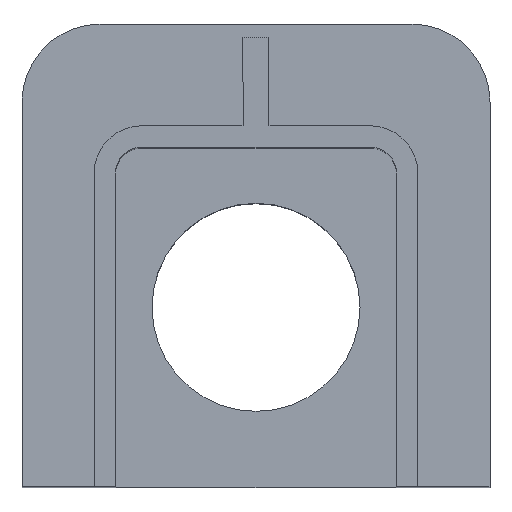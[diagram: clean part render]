
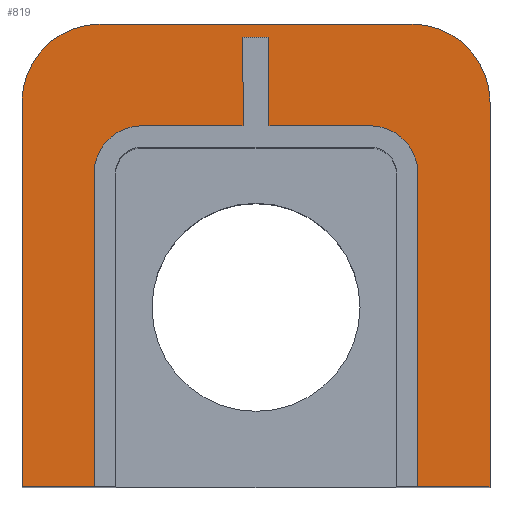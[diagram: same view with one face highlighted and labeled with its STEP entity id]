
A CAD part, top view. The second image highlights one B-rep face of the part: STEP entity #819.
In plain terms, the highlighted planar face has unit normal (0, 0, 1).
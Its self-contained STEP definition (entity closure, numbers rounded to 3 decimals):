
#2 = VERTEX_POINT ( 'NONE', #16 ) ;
#16 = CARTESIAN_POINT ( 'NONE',  ( -45., -44.5, 30. ) ) ;
#30 = ORIENTED_EDGE ( 'NONE', *, *, #630, .T. ) ;
#45 = CARTESIAN_POINT ( 'NONE',  ( 2.5, 41.9, 30. ) ) ;
#69 = CARTESIAN_POINT ( 'NONE',  ( 2.5, 24.9, 30. ) ) ;
#71 = LINE ( 'NONE', #833, #360 ) ;
#75 = CARTESIAN_POINT ( 'NONE',  ( 31.1, 15.8, 30. ) ) ;
#86 = CARTESIAN_POINT ( 'NONE',  ( -22., 15.8, 30. ) ) ;
#87 = EDGE_CURVE ( 'NONE', #645, #639, #923, .T. ) ;
#150 = DIRECTION ( 'NONE',  ( 0., 0., 1. ) ) ;
#158 = CARTESIAN_POINT ( 'NONE',  ( 2.5, 41.9, 30. ) ) ;
#163 = VECTOR ( 'NONE', #699, 1000. ) ;
#166 = ORIENTED_EDGE ( 'NONE', *, *, #295, .T. ) ;
#185 = LINE ( 'NONE', #994, #1385 ) ;
#207 = ORIENTED_EDGE ( 'NONE', *, *, #1513, .T. ) ;
#219 = DIRECTION ( 'NONE',  ( 0., -1., 0. ) ) ;
#224 = FACE_OUTER_BOUND ( 'NONE', #1183, .T. ) ;
#229 = CARTESIAN_POINT ( 'NONE',  ( 45., -44.5, 30. ) ) ;
#237 = DIRECTION ( 'NONE',  ( 0., 0., 1. ) ) ;
#260 = CARTESIAN_POINT ( 'NONE',  ( 2.5, 24.9, 30. ) ) ;
#266 = VECTOR ( 'NONE', #635, 1000. ) ;
#272 = VERTEX_POINT ( 'NONE', #1634 ) ;
#295 = EDGE_CURVE ( 'NONE', #1492, #2, #185, .T. ) ;
#308 = EDGE_CURVE ( 'NONE', #612, #1130, #427, .T. ) ;
#350 = ORIENTED_EDGE ( 'NONE', *, *, #374, .F. ) ;
#351 = DIRECTION ( 'NONE',  ( -1., 0., 0. ) ) ;
#360 = VECTOR ( 'NONE', #453, 1000. ) ;
#371 = ORIENTED_EDGE ( 'NONE', *, *, #455, .T. ) ;
#374 = EDGE_CURVE ( 'NONE', #1132, #1166, #1341, .T. ) ;
#401 = VERTEX_POINT ( 'NONE', #863 ) ;
#402 = EDGE_CURVE ( 'NONE', #1657, #1332, #482, .T. ) ;
#411 = ORIENTED_EDGE ( 'NONE', *, *, #1579, .F. ) ;
#414 = CARTESIAN_POINT ( 'NONE',  ( 30., 29.5, 30. ) ) ;
#427 = LINE ( 'NONE', #1239, #1592 ) ;
#451 = DIRECTION ( 'NONE',  ( -1., 0., 0. ) ) ;
#453 = DIRECTION ( 'NONE',  ( 1., 0., 0. ) ) ;
#454 = CARTESIAN_POINT ( 'NONE',  ( -2.5, 41.9, 30. ) ) ;
#455 = EDGE_CURVE ( 'NONE', #1276, #1657, #1221, .T. ) ;
#463 = LINE ( 'NONE', #69, #684 ) ;
#464 = ORIENTED_EDGE ( 'NONE', *, *, #793, .T. ) ;
#480 = VECTOR ( 'NONE', #713, 1000. ) ;
#482 = LINE ( 'NONE', #1017, #941 ) ;
#491 = CARTESIAN_POINT ( 'NONE',  ( -45., -44.5, 30. ) ) ;
#492 = ORIENTED_EDGE ( 'NONE', *, *, #402, .T. ) ;
#497 = CARTESIAN_POINT ( 'NONE',  ( -30., 44.5, 30. ) ) ;
#517 = LINE ( 'NONE', #891, #878 ) ;
#542 = ORIENTED_EDGE ( 'NONE', *, *, #1050, .F. ) ;
#564 = ORIENTED_EDGE ( 'NONE', *, *, #87, .F. ) ;
#571 = PLANE ( 'NONE',  #1194 ) ;
#582 = CARTESIAN_POINT ( 'NONE',  ( -45., 29.5, 30. ) ) ;
#593 = DIRECTION ( 'NONE',  ( -1., 0., 0. ) ) ;
#602 = CIRCLE ( 'NONE', #885, 9.1 ) ;
#612 = VERTEX_POINT ( 'NONE', #895 ) ;
#619 = DIRECTION ( 'NONE',  ( -1., 0., 0. ) ) ;
#630 = EDGE_CURVE ( 'NONE', #1332, #612, #858, .T. ) ;
#635 = DIRECTION ( 'NONE',  ( 1., 0., 0. ) ) ;
#637 = CARTESIAN_POINT ( 'NONE',  ( 22., 15.8, 30. ) ) ;
#639 = VERTEX_POINT ( 'NONE', #1313 ) ;
#641 = AXIS2_PLACEMENT_3D ( 'NONE', #414, #150, #1578 ) ;
#645 = VERTEX_POINT ( 'NONE', #158 ) ;
#653 = ORIENTED_EDGE ( 'NONE', *, *, #1073, .F. ) ;
#664 = VECTOR ( 'NONE', #1655, 1000. ) ;
#684 = VECTOR ( 'NONE', #1329, 1000. ) ;
#699 = DIRECTION ( 'NONE',  ( -1., 0., 0. ) ) ;
#713 = DIRECTION ( 'NONE',  ( 0., -1., 0. ) ) ;
#735 = ORIENTED_EDGE ( 'NONE', *, *, #882, .F. ) ;
#760 = CARTESIAN_POINT ( 'NONE',  ( 22., 24.9, 30. ) ) ;
#764 = EDGE_CURVE ( 'NONE', #1166, #645, #463, .T. ) ;
#780 = VECTOR ( 'NONE', #593, 1000. ) ;
#793 = EDGE_CURVE ( 'NONE', #1130, #1492, #940, .T. ) ;
#805 = CARTESIAN_POINT ( 'NONE',  ( 45., 29.5, 30. ) ) ;
#814 = DIRECTION ( 'NONE',  ( 0., 0., 1. ) ) ;
#819 = ADVANCED_FACE ( 'NONE', ( #224 ), #571, .F. ) ;
#823 = DIRECTION ( 'NONE',  ( -1., 0., 0. ) ) ;
#833 = CARTESIAN_POINT ( 'NONE',  ( -45., -44.5, 30. ) ) ;
#858 = CIRCLE ( 'NONE', #641, 15. ) ;
#863 = CARTESIAN_POINT ( 'NONE',  ( -22., 24.9, 30. ) ) ;
#878 = VECTOR ( 'NONE', #1390, 1000. ) ;
#882 = EDGE_CURVE ( 'NONE', #639, #1415, #1199, .T. ) ;
#885 = AXIS2_PLACEMENT_3D ( 'NONE', #637, #237, #619 ) ;
#891 = CARTESIAN_POINT ( 'NONE',  ( -31.1, -44.5, 30. ) ) ;
#895 = CARTESIAN_POINT ( 'NONE',  ( 30., 44.5, 30. ) ) ;
#911 = EDGE_CURVE ( 'NONE', #1276, #1500, #1381, .T. ) ;
#923 = LINE ( 'NONE', #45, #163 ) ;
#940 = CIRCLE ( 'NONE', #1679, 15. ) ;
#941 = VECTOR ( 'NONE', #1658, 1000. ) ;
#969 = ORIENTED_EDGE ( 'NONE', *, *, #1098, .F. ) ;
#994 = CARTESIAN_POINT ( 'NONE',  ( -45., -44.5, 30. ) ) ;
#1006 = LINE ( 'NONE', #1145, #664 ) ;
#1017 = CARTESIAN_POINT ( 'NONE',  ( 45., -44.5, 30. ) ) ;
#1019 = CARTESIAN_POINT ( 'NONE',  ( -31.1, -44.5, 30. ) ) ;
#1035 = ORIENTED_EDGE ( 'NONE', *, *, #308, .T. ) ;
#1050 = EDGE_CURVE ( 'NONE', #1500, #1132, #602, .T. ) ;
#1073 = EDGE_CURVE ( 'NONE', #1415, #401, #1006, .T. ) ;
#1084 = CIRCLE ( 'NONE', #1281, 9.1 ) ;
#1098 = EDGE_CURVE ( 'NONE', #272, #1111, #517, .T. ) ;
#1111 = VERTEX_POINT ( 'NONE', #1019 ) ;
#1130 = VERTEX_POINT ( 'NONE', #497 ) ;
#1132 = VERTEX_POINT ( 'NONE', #760 ) ;
#1145 = CARTESIAN_POINT ( 'NONE',  ( -22., 24.9, 30. ) ) ;
#1161 = ORIENTED_EDGE ( 'NONE', *, *, #764, .F. ) ;
#1166 = VERTEX_POINT ( 'NONE', #260 ) ;
#1183 = EDGE_LOOP ( 'NONE', ( #735, #564, #1161, #350, #542, #1628, #371, #492, #30, #1035, #464, #166, #207, #969, #411, #653 ) ) ;
#1194 = AXIS2_PLACEMENT_3D ( 'NONE', #1599, #1617, #823 ) ;
#1199 = LINE ( 'NONE', #454, #480 ) ;
#1204 = CARTESIAN_POINT ( 'NONE',  ( -30., 29.5, 30. ) ) ;
#1218 = CARTESIAN_POINT ( 'NONE',  ( -2.5, 24.9, 30. ) ) ;
#1221 = LINE ( 'NONE', #491, #266 ) ;
#1230 = CARTESIAN_POINT ( 'NONE',  ( 31.1, 15.8, 30. ) ) ;
#1239 = CARTESIAN_POINT ( 'NONE',  ( -45., 44.5, 30. ) ) ;
#1276 = VERTEX_POINT ( 'NONE', #1437 ) ;
#1281 = AXIS2_PLACEMENT_3D ( 'NONE', #86, #1520, #351 ) ;
#1313 = CARTESIAN_POINT ( 'NONE',  ( -2.5, 41.9, 30. ) ) ;
#1329 = DIRECTION ( 'NONE',  ( 0., 1., 0. ) ) ;
#1332 = VERTEX_POINT ( 'NONE', #805 ) ;
#1341 = LINE ( 'NONE', #1345, #780 ) ;
#1345 = CARTESIAN_POINT ( 'NONE',  ( -22., 24.9, 30. ) ) ;
#1381 = LINE ( 'NONE', #75, #1549 ) ;
#1385 = VECTOR ( 'NONE', #219, 1000. ) ;
#1390 = DIRECTION ( 'NONE',  ( 0., -1., 0. ) ) ;
#1415 = VERTEX_POINT ( 'NONE', #1218 ) ;
#1437 = CARTESIAN_POINT ( 'NONE',  ( 31.1, -44.5, 30. ) ) ;
#1492 = VERTEX_POINT ( 'NONE', #582 ) ;
#1500 = VERTEX_POINT ( 'NONE', #1230 ) ;
#1512 = DIRECTION ( 'NONE',  ( 0., 1., 0. ) ) ;
#1513 = EDGE_CURVE ( 'NONE', #2, #1111, #71, .T. ) ;
#1520 = DIRECTION ( 'NONE',  ( 0., 0., 1. ) ) ;
#1549 = VECTOR ( 'NONE', #1512, 1000. ) ;
#1578 = DIRECTION ( 'NONE',  ( -1., 0., 0. ) ) ;
#1579 = EDGE_CURVE ( 'NONE', #401, #272, #1084, .T. ) ;
#1592 = VECTOR ( 'NONE', #1627, 1000. ) ;
#1599 = CARTESIAN_POINT ( 'NONE',  ( 0., 0., 30. ) ) ;
#1617 = DIRECTION ( 'NONE',  ( 0., 0., -1. ) ) ;
#1627 = DIRECTION ( 'NONE',  ( -1., 0., 0. ) ) ;
#1628 = ORIENTED_EDGE ( 'NONE', *, *, #911, .F. ) ;
#1634 = CARTESIAN_POINT ( 'NONE',  ( -31.1, 15.8, 30. ) ) ;
#1655 = DIRECTION ( 'NONE',  ( -1., 0., 0. ) ) ;
#1657 = VERTEX_POINT ( 'NONE', #229 ) ;
#1658 = DIRECTION ( 'NONE',  ( 0., 1., 0. ) ) ;
#1679 = AXIS2_PLACEMENT_3D ( 'NONE', #1204, #814, #451 ) ;
